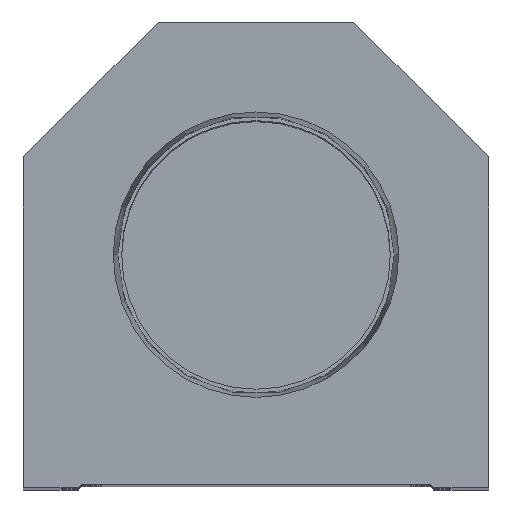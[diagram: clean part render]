
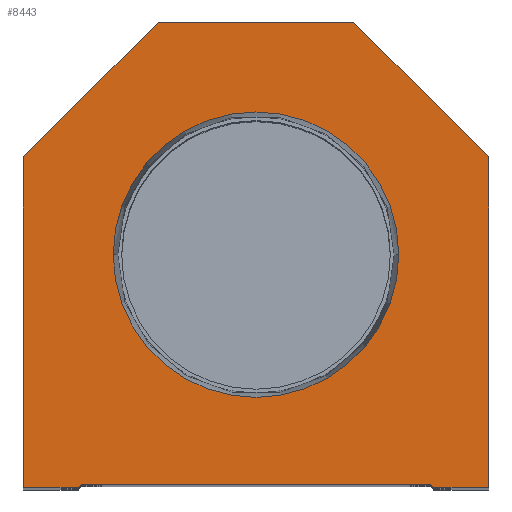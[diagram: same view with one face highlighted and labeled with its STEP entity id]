
A CAD part, top view. The second image highlights one B-rep face of the part: STEP entity #8443.
In plain terms, the highlighted planar face has unit normal (0, 0, 1).
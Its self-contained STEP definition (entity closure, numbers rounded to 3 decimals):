
#187 = FACE_OUTER_BOUND ( 'NONE', #20795, .T. ) ;
#482 = CARTESIAN_POINT ( 'NONE',  ( 23.374, 38.1, 0. ) ) ;
#617 = DIRECTION ( 'NONE',  ( 1., 0., 0. ) ) ;
#666 = ORIENTED_EDGE ( 'NONE', *, *, #12220, .T. ) ;
#668 = DIRECTION ( 'NONE',  ( 0., 0., 1. ) ) ;
#733 = VECTOR ( 'NONE', #617, 1000. ) ;
#778 = EDGE_CURVE ( 'NONE', #19480, #10657, #2292, .T. ) ;
#1197 = LINE ( 'NONE', #15293, #1563 ) ;
#1251 = LINE ( 'NONE', #1485, #21399 ) ;
#1482 = VECTOR ( 'NONE', #2775, 1000. ) ;
#1485 = CARTESIAN_POINT ( 'NONE',  ( -28.6, 0., 0. ) ) ;
#1563 = VECTOR ( 'NONE', #20627, 1000. ) ;
#1643 = VECTOR ( 'NONE', #9559, 1000. ) ;
#2044 = LINE ( 'NONE', #10803, #11775 ) ;
#2201 = ORIENTED_EDGE ( 'NONE', *, *, #4589, .T. ) ;
#2272 = DIRECTION ( 'NONE',  ( 0.707, -0.707, 0. ) ) ;
#2292 = CIRCLE ( 'NONE', #16273, 23.374 ) ;
#2356 = CARTESIAN_POINT ( 'NONE',  ( -28.6, 0.5, 0. ) ) ;
#2390 = VERTEX_POINT ( 'NONE', #2356 ) ;
#2525 = LINE ( 'NONE', #11391, #1643 ) ;
#2661 = EDGE_CURVE ( 'NONE', #3625, #20245, #2044, .T. ) ;
#2775 = DIRECTION ( 'NONE',  ( 1., 0., 0. ) ) ;
#3130 = AXIS2_PLACEMENT_3D ( 'NONE', #21119, #19050, #3229 ) ;
#3229 = DIRECTION ( 'NONE',  ( 1., 0., 0. ) ) ;
#3625 = VERTEX_POINT ( 'NONE', #22682 ) ;
#4589 = EDGE_CURVE ( 'NONE', #2390, #9822, #11526, .T. ) ;
#5273 = DIRECTION ( 'NONE',  ( 0., 1., 0. ) ) ;
#5378 = CARTESIAN_POINT ( 'NONE',  ( -38.1, 0., 0. ) ) ;
#6227 = AXIS2_PLACEMENT_3D ( 'NONE', #20112, #668, #12943 ) ;
#6695 = ORIENTED_EDGE ( 'NONE', *, *, #9432, .T. ) ;
#7053 = FACE_BOUND ( 'NONE', #7836, .T. ) ;
#7208 = VERTEX_POINT ( 'NONE', #19137 ) ;
#7404 = VERTEX_POINT ( 'NONE', #20163 ) ;
#7535 = CARTESIAN_POINT ( 'NONE',  ( -14.55, 14.55, 0. ) ) ;
#7610 = DIRECTION ( 'NONE',  ( -1., 0., 0. ) ) ;
#7836 = EDGE_LOOP ( 'NONE', ( #9954, #10098 ) ) ;
#8443 = ADVANCED_FACE ( 'NONE', ( #7053, #187 ), #16003, .T. ) ;
#8487 = VERTEX_POINT ( 'NONE', #21627 ) ;
#8655 = LINE ( 'NONE', #11261, #733 ) ;
#8851 = VECTOR ( 'NONE', #15978, 1000. ) ;
#8864 = ORIENTED_EDGE ( 'NONE', *, *, #18543, .T. ) ;
#9432 = EDGE_CURVE ( 'NONE', #7404, #2390, #17765, .T. ) ;
#9559 = DIRECTION ( 'NONE',  ( -0.707, -0.707, 0. ) ) ;
#9643 = CARTESIAN_POINT ( 'NONE',  ( 38.1, 54.1, 0. ) ) ;
#9663 = CARTESIAN_POINT ( 'NONE',  ( 38.1, 0., 0. ) ) ;
#9730 = ORIENTED_EDGE ( 'NONE', *, *, #18762, .T. ) ;
#9737 = ORIENTED_EDGE ( 'NONE', *, *, #2661, .T. ) ;
#9740 = VERTEX_POINT ( 'NONE', #9643 ) ;
#9822 = VERTEX_POINT ( 'NONE', #12054 ) ;
#9954 = ORIENTED_EDGE ( 'NONE', *, *, #18155, .F. ) ;
#9957 = ORIENTED_EDGE ( 'NONE', *, *, #20994, .T. ) ;
#10098 = ORIENTED_EDGE ( 'NONE', *, *, #778, .F. ) ;
#10158 = CARTESIAN_POINT ( 'NONE',  ( 0., 38.1, 0. ) ) ;
#10657 = VERTEX_POINT ( 'NONE', #482 ) ;
#10803 = CARTESIAN_POINT ( 'NONE',  ( 16., 76.2, 0. ) ) ;
#10958 = DIRECTION ( 'NONE',  ( 0.707, 0.707, 0. ) ) ;
#11250 = VECTOR ( 'NONE', #10958, 1000. ) ;
#11261 = CARTESIAN_POINT ( 'NONE',  ( 28.6, 0., 0. ) ) ;
#11391 = CARTESIAN_POINT ( 'NONE',  ( -38.1, 54.1, 0. ) ) ;
#11526 = LINE ( 'NONE', #18574, #1482 ) ;
#11775 = VECTOR ( 'NONE', #7610, 1000. ) ;
#12054 = CARTESIAN_POINT ( 'NONE',  ( 28.6, 0.5, 0. ) ) ;
#12096 = CARTESIAN_POINT ( 'NONE',  ( 38.1, 0., 0. ) ) ;
#12220 = EDGE_CURVE ( 'NONE', #20245, #20735, #2525, .T. ) ;
#12340 = ORIENTED_EDGE ( 'NONE', *, *, #16041, .T. ) ;
#12943 = DIRECTION ( 'NONE',  ( 1., 0., 0. ) ) ;
#14117 = VERTEX_POINT ( 'NONE', #9663 ) ;
#14256 = CARTESIAN_POINT ( 'NONE',  ( -23.374, 38.1, 0. ) ) ;
#14987 = ORIENTED_EDGE ( 'NONE', *, *, #19135, .T. ) ;
#15293 = CARTESIAN_POINT ( 'NONE',  ( 38.1, 54.1, 0. ) ) ;
#15455 = DIRECTION ( 'NONE',  ( 1., 0., 0. ) ) ;
#15797 = DIRECTION ( 'NONE',  ( 1., 0., 0. ) ) ;
#15882 = LINE ( 'NONE', #12096, #16893 ) ;
#15978 = DIRECTION ( 'NONE',  ( 0., -1., 0. ) ) ;
#16003 = PLANE ( 'NONE',  #3130 ) ;
#16041 = EDGE_CURVE ( 'NONE', #14117, #9740, #15882, .T. ) ;
#16273 = AXIS2_PLACEMENT_3D ( 'NONE', #10158, #21034, #15797 ) ;
#16893 = VECTOR ( 'NONE', #5273, 1000. ) ;
#16940 = CARTESIAN_POINT ( 'NONE',  ( -16., 76.2, 0. ) ) ;
#17765 = LINE ( 'NONE', #7535, #11250 ) ;
#17962 = LINE ( 'NONE', #21334, #20275 ) ;
#18155 = EDGE_CURVE ( 'NONE', #10657, #19480, #22095, .T. ) ;
#18421 = CARTESIAN_POINT ( 'NONE',  ( -38.1, 54.1, 0. ) ) ;
#18543 = EDGE_CURVE ( 'NONE', #20735, #7208, #21223, .T. ) ;
#18574 = CARTESIAN_POINT ( 'NONE',  ( -28.6, 0.5, 0. ) ) ;
#18762 = EDGE_CURVE ( 'NONE', #9822, #8487, #17962, .T. ) ;
#19050 = DIRECTION ( 'NONE',  ( 0., 0., 1. ) ) ;
#19135 = EDGE_CURVE ( 'NONE', #7208, #7404, #1251, .T. ) ;
#19137 = CARTESIAN_POINT ( 'NONE',  ( -38.1, 0., 0. ) ) ;
#19480 = VERTEX_POINT ( 'NONE', #14256 ) ;
#19537 = EDGE_CURVE ( 'NONE', #8487, #14117, #8655, .T. ) ;
#20112 = CARTESIAN_POINT ( 'NONE',  ( 0., 38.1, 0. ) ) ;
#20163 = CARTESIAN_POINT ( 'NONE',  ( -29.1, 0., 0. ) ) ;
#20245 = VERTEX_POINT ( 'NONE', #16940 ) ;
#20275 = VECTOR ( 'NONE', #2272, 1000. ) ;
#20627 = DIRECTION ( 'NONE',  ( -0.707, 0.707, 0. ) ) ;
#20735 = VERTEX_POINT ( 'NONE', #18421 ) ;
#20795 = EDGE_LOOP ( 'NONE', ( #14987, #6695, #2201, #9730, #21646, #12340, #9957, #9737, #666, #8864 ) ) ;
#20994 = EDGE_CURVE ( 'NONE', #9740, #3625, #1197, .T. ) ;
#21034 = DIRECTION ( 'NONE',  ( 0., 0., 1. ) ) ;
#21119 = CARTESIAN_POINT ( 'NONE',  ( 0., 0., 0. ) ) ;
#21223 = LINE ( 'NONE', #5378, #8851 ) ;
#21334 = CARTESIAN_POINT ( 'NONE',  ( 14.55, 14.55, 0. ) ) ;
#21399 = VECTOR ( 'NONE', #15455, 1000. ) ;
#21627 = CARTESIAN_POINT ( 'NONE',  ( 29.1, 0., 0. ) ) ;
#21646 = ORIENTED_EDGE ( 'NONE', *, *, #19537, .T. ) ;
#22095 = CIRCLE ( 'NONE', #6227, 23.374 ) ;
#22682 = CARTESIAN_POINT ( 'NONE',  ( 16., 76.2, 0. ) ) ;
